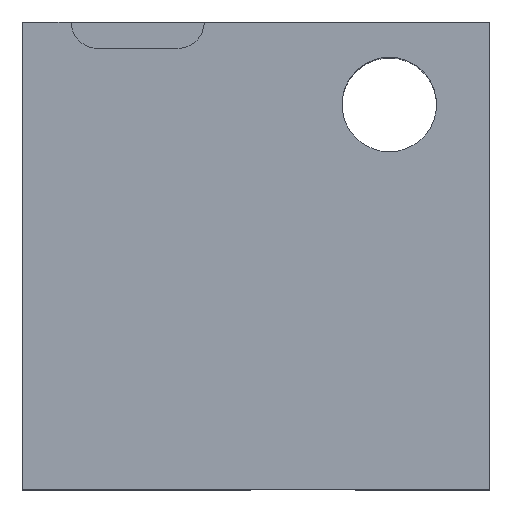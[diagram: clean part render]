
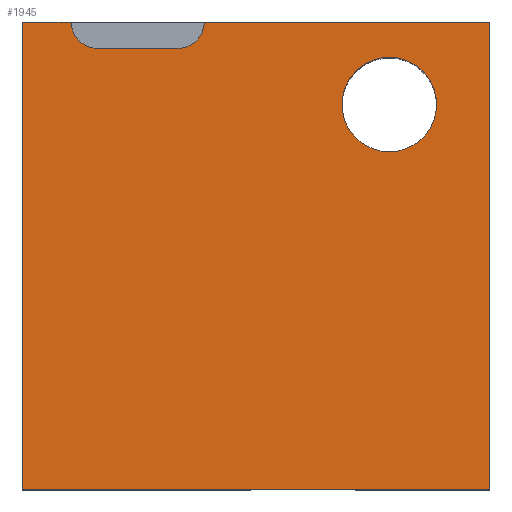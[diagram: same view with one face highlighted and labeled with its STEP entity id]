
A CAD part, top view. The second image highlights one B-rep face of the part: STEP entity #1945.
In plain terms, the highlighted planar face has unit normal (0, 0, 1).
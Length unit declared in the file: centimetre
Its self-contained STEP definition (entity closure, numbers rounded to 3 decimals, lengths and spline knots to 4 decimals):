
#53 = CARTESIAN_POINT ( 'NONE',  ( 886.6101, 823.3648, 1000. ) ) ;
#69 = FACE_BOUND ( 'NONE', #2298, .T. ) ;
#179 = DIRECTION ( 'NONE',  ( 1., 0., 0. ) ) ;
#226 = ORIENTED_EDGE ( 'NONE', *, *, #2054, .T. ) ;
#237 = EDGE_LOOP ( 'NONE', ( #491, #2271, #226, #2294, #1960, #1921, #2248, #1057 ) ) ;
#289 = DIRECTION ( 'NONE',  ( 0., 0., 1. ) ) ;
#294 = VERTEX_POINT ( 'NONE', #2226 ) ;
#330 = AXIS2_PLACEMENT_3D ( 'NONE', #880, #289, #1680 ) ;
#339 = CARTESIAN_POINT ( 'NONE',  ( 0., 0., 1000. ) ) ;
#343 = CARTESIAN_POINT ( 'NONE',  ( 1000., 1000., 1000. ) ) ;
#380 = DIRECTION ( 'NONE',  ( 1., 0., 0. ) ) ;
#450 = DIRECTION ( 'NONE',  ( 0., 0., 1. ) ) ;
#455 = CARTESIAN_POINT ( 'NONE',  ( 785.3612, 823.3648, 1000. ) ) ;
#466 = CARTESIAN_POINT ( 'NONE',  ( 0., 1000., 1000. ) ) ;
#491 = ORIENTED_EDGE ( 'NONE', *, *, #1497, .F. ) ;
#497 = DIRECTION ( 'NONE',  ( 1., 0., 0. ) ) ;
#518 = CARTESIAN_POINT ( 'NONE',  ( 160.7893, 943.6574, 1000. ) ) ;
#523 = EDGE_CURVE ( 'NONE', #1336, #2578, #1077, .T. ) ;
#625 = AXIS2_PLACEMENT_3D ( 'NONE', #1186, #923, #179 ) ;
#661 = VECTOR ( 'NONE', #380, 100. ) ;
#739 = VECTOR ( 'NONE', #1678, 100. ) ;
#759 = CARTESIAN_POINT ( 'NONE',  ( 1000., 1000., 1000. ) ) ;
#772 = ORIENTED_EDGE ( 'NONE', *, *, #1963, .F. ) ;
#783 = LINE ( 'NONE', #518, #661 ) ;
#839 = VECTOR ( 'NONE', #2580, 100. ) ;
#880 = CARTESIAN_POINT ( 'NONE',  ( 160.7893, 1000., 1000. ) ) ;
#908 = DIRECTION ( 'NONE',  ( 1., 0., 0. ) ) ;
#916 = CARTESIAN_POINT ( 'NONE',  ( 0., 1000., 1000. ) ) ;
#923 = DIRECTION ( 'NONE',  ( 0., 0., 1. ) ) ;
#924 = VERTEX_POINT ( 'NONE', #2029 ) ;
#979 = LINE ( 'NONE', #343, #839 ) ;
#1050 = EDGE_CURVE ( 'NONE', #1505, #2578, #2273, .T. ) ;
#1057 = ORIENTED_EDGE ( 'NONE', *, *, #1626, .F. ) ;
#1077 = LINE ( 'NONE', #466, #739 ) ;
#1079 = EDGE_CURVE ( 'NONE', #1739, #2193, #2297, .T. ) ;
#1081 = CARTESIAN_POINT ( 'NONE',  ( 0., 1000., 1000. ) ) ;
#1109 = CARTESIAN_POINT ( 'NONE',  ( 160.7893, 943.6574, 1000. ) ) ;
#1139 = CIRCLE ( 'NONE', #330, 56.3426 ) ;
#1160 = LINE ( 'NONE', #916, #1511 ) ;
#1186 = CARTESIAN_POINT ( 'NONE',  ( 785.3612, 823.3648, 1000. ) ) ;
#1271 = DIRECTION ( 'NONE',  ( 0., 0., 1. ) ) ;
#1309 = AXIS2_PLACEMENT_3D ( 'NONE', #2103, #450, #908 ) ;
#1315 = EDGE_CURVE ( 'NONE', #294, #2487, #1978, .T. ) ;
#1323 = CARTESIAN_POINT ( 'NONE',  ( 0., 0., 1000. ) ) ;
#1327 = EDGE_CURVE ( 'NONE', #2193, #1336, #979, .T. ) ;
#1336 = VERTEX_POINT ( 'NONE', #759 ) ;
#1348 = CARTESIAN_POINT ( 'NONE',  ( 0., 1000., 1000. ) ) ;
#1497 = EDGE_CURVE ( 'NONE', #924, #1512, #1139, .T. ) ;
#1505 = VERTEX_POINT ( 'NONE', #2494 ) ;
#1509 = FACE_OUTER_BOUND ( 'NONE', #237, .T. ) ;
#1511 = VECTOR ( 'NONE', #2189, 100. ) ;
#1512 = VERTEX_POINT ( 'NONE', #1109 ) ;
#1559 = CARTESIAN_POINT ( 'NONE',  ( 1000., 0., 1000. ) ) ;
#1626 = EDGE_CURVE ( 'NONE', #1512, #1505, #783, .T. ) ;
#1673 = AXIS2_PLACEMENT_3D ( 'NONE', #1323, #2122, #1919 ) ;
#1678 = DIRECTION ( 'NONE',  ( -1., 0., 0. ) ) ;
#1680 = DIRECTION ( 'NONE',  ( 1., 0., 0. ) ) ;
#1739 = VERTEX_POINT ( 'NONE', #339 ) ;
#1883 = DIRECTION ( 'NONE',  ( -1., 0., 0. ) ) ;
#1919 = DIRECTION ( 'NONE',  ( 1., 0., 0. ) ) ;
#1921 = ORIENTED_EDGE ( 'NONE', *, *, #523, .T. ) ;
#1945 = ADVANCED_FACE ( 'NONE', ( #69, #1509 ), #2316, .T. ) ;
#1960 = ORIENTED_EDGE ( 'NONE', *, *, #1327, .T. ) ;
#1963 = EDGE_CURVE ( 'NONE', #2487, #294, #2188, .T. ) ;
#1977 = ORIENTED_EDGE ( 'NONE', *, *, #1315, .F. ) ;
#1978 = CIRCLE ( 'NONE', #625, 101.2489 ) ;
#2024 = VECTOR ( 'NONE', #497, 100. ) ;
#2029 = CARTESIAN_POINT ( 'NONE',  ( 104.4467, 1000., 1000. ) ) ;
#2054 = EDGE_CURVE ( 'NONE', #2210, #1739, #1160, .T. ) ;
#2066 = CARTESIAN_POINT ( 'NONE',  ( 0., 0., 1000. ) ) ;
#2071 = DIRECTION ( 'NONE',  ( 1., 0., 0. ) ) ;
#2103 = CARTESIAN_POINT ( 'NONE',  ( 332.8788, 1000., 1000. ) ) ;
#2122 = DIRECTION ( 'NONE',  ( 0., 0., 1. ) ) ;
#2188 = CIRCLE ( 'NONE', #2348, 101.2489 ) ;
#2189 = DIRECTION ( 'NONE',  ( 0., -1., 0. ) ) ;
#2193 = VERTEX_POINT ( 'NONE', #1559 ) ;
#2210 = VERTEX_POINT ( 'NONE', #1348 ) ;
#2226 = CARTESIAN_POINT ( 'NONE',  ( 684.1124, 823.3648, 1000. ) ) ;
#2248 = ORIENTED_EDGE ( 'NONE', *, *, #1050, .F. ) ;
#2271 = ORIENTED_EDGE ( 'NONE', *, *, #2512, .T. ) ;
#2273 = CIRCLE ( 'NONE', #1309, 56.3426 ) ;
#2277 = VECTOR ( 'NONE', #1883, 100. ) ;
#2294 = ORIENTED_EDGE ( 'NONE', *, *, #1079, .T. ) ;
#2297 = LINE ( 'NONE', #2066, #2024 ) ;
#2298 = EDGE_LOOP ( 'NONE', ( #772, #1977 ) ) ;
#2316 = PLANE ( 'NONE',  #1673 ) ;
#2348 = AXIS2_PLACEMENT_3D ( 'NONE', #455, #1271, #2071 ) ;
#2385 = CARTESIAN_POINT ( 'NONE',  ( 389.2213, 1000., 1000. ) ) ;
#2470 = LINE ( 'NONE', #1081, #2277 ) ;
#2487 = VERTEX_POINT ( 'NONE', #53 ) ;
#2494 = CARTESIAN_POINT ( 'NONE',  ( 332.8788, 943.6574, 1000. ) ) ;
#2512 = EDGE_CURVE ( 'NONE', #924, #2210, #2470, .T. ) ;
#2578 = VERTEX_POINT ( 'NONE', #2385 ) ;
#2580 = DIRECTION ( 'NONE',  ( 0., 1., 0. ) ) ;
